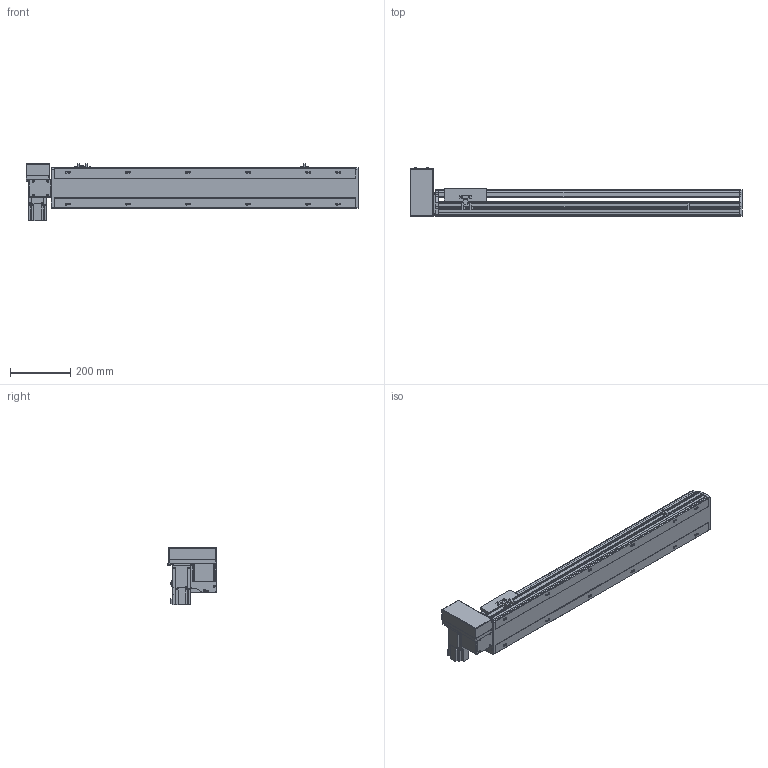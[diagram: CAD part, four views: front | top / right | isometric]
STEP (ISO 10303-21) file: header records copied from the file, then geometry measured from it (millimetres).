
FILE_DESCRIPTION(/* description */ ('STEP AP214'),/* implementation_level */ '2;1');
FILE_NAME(/* name */ 'PBS140S-P40-S750-RU-T40-C1-N(0)',/* time_stamp */ '2022-06-09T02:54:26+02:00',/* author */ ('License CC BY-ND 4.0'),/* organization */ ('CADENAS'),/* preprocessor_version */ 'ST-DEVELOPER v18.102',/* originating_system */ 'PARTsolutions',/* authorisation */ ' ');
FILE_SCHEMA (('AUTOMOTIVE_DESIGN {1 0 10303 214 3 1 1}'));
Length unit declared in the file: millimetre
Products named in the file (7): PBS140S-P40-S750-RU-T40-C1-N(0); PBS140S_sensor; PBS140S_plant; PBS140S_sliser; T40-p1; PBS140ST-RU_motors; PBS140S-S750()_body
Assembly tree (8 placements, depth 2):
  PBS140S-P40-S750-RU-T40-C1-N(0)
    PBS140S_sensor  x3
    PBS140S_plant
    PBS140S_sliser
    T40-p1
    PBS140ST-RU_motors
    PBS140S-S750()_body
Bounding box: 1104 x 162.5 x 189.7 mm (x, y, z)
Volume: 5900492.8 mm3; surface area: 1033026.2 mm2
Topology: 8 solids, 8 shells, 1067 faces, 2831 edges, 1853 vertices
Faces by surface type: plane 690, cylinder 329, cone 38, sphere 8, torus 2
Full cylindrical faces by diameter (mm): 3.242 x4, 4 x2, 4.134 x4, 4.4 x8, 4.5 x2, 4.8 x4, 4.917 x20, 5.5 x7, 6 x2, 7 x14, 7.5 x8, 8 x12, 8.5 x4, 10.5 x12, 14 x1, 30 x2, 50 x2
Entity records: 30580 total; most frequent: CARTESIAN_POINT 5592, DIRECTION 5208, ORIENTED_EDGE 4942, EDGE_CURVE 2471, AXIS2_PLACEMENT_3D 1799, VERTEX_POINT 1705, LINE 1610, VECTOR 1610
